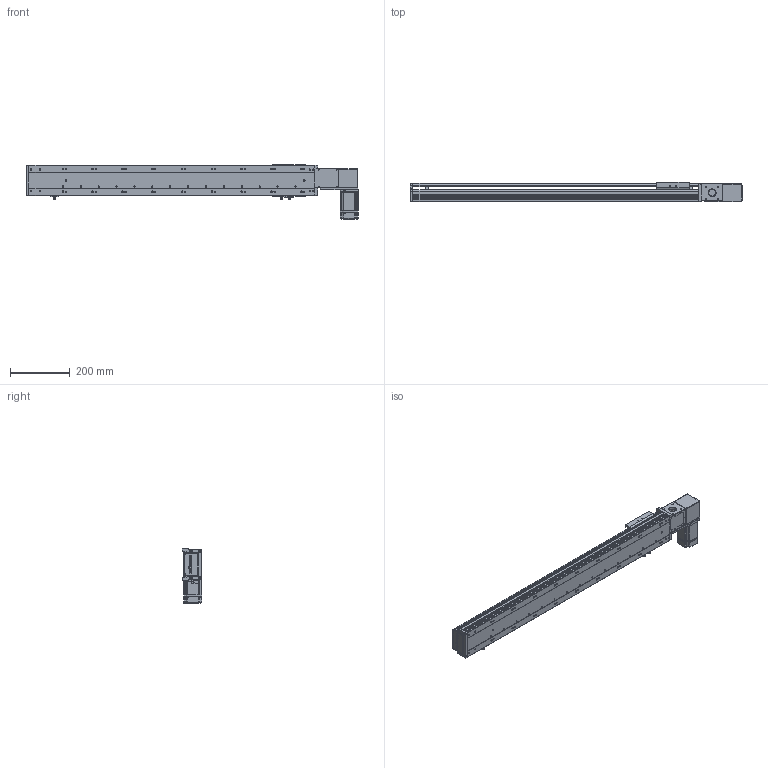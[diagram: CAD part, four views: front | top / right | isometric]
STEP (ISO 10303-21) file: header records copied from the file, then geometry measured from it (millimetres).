
FILE_DESCRIPTION (( 'STEP AP203' ), '1' );
FILE_NAME ('RY100-T-300-LK.SLDASM_750.step', '2024-04-25T05:37:10', ( '盈信电脑' ), ( '东莞市道滘镇水果街19号' ), 'SwSTEP 2.0', 'SolidWorks 2016', '' );
FILE_SCHEMA (( 'CONFIG_CONTROL_DESIGN' ));
Length unit declared in the file: millimetre
Products named in the file (13): 滅袉蝶18-10; 1; RY100綴裔啣; RY100-T-300-LK.SLDASM_750; RY100-T翋肮祭謫裔啣2; RY100-T-300-RK倰第菁釱_750; RY100-T-300-RK倰第奻裔_750; RY100俋离覜茼え; RY100-T左右折电机安装板; RY100-T肮祭謫臏賑輸; RY80-T肮祭謫俋欶; RY100-T肮祭謫翋盓傅釱; 覜茼ん672
Assembly tree (16 placements, depth 2):
  RY100-T-300-LK.SLDASM_750
    RY100-T-300-RK倰第菁釱_750
    RY100-T-300-RK倰第奻裔_750
    RY100-T肮祭謫臏賑輸
    RY100綴裔啣
    覜茼ん672  x3
    RY100俋离覜茼え
    RY100-T肮祭謫翋盓傅釱
    滅袉蝶18-10  x2
    RY100-T翋肮祭謫裔啣2  x2
    RY80-T肮祭謫俋欶
    RY100-T左右折电机安装板
    1
Bounding box: 1114 x 66 x 182.5 mm (x, y, z)
Volume: 2210163.7 mm3; surface area: 896117.7 mm2
Topology: 16 solids, 16 shells, 2184 faces, 6109 edges, 3971 vertices
Faces by surface type: plane 1182, cylinder 789, cone 135, bspline 78
Entity records: 70069 total; most frequent: CARTESIAN_POINT 17243, ORIENTED_EDGE 10954, DIRECTION 10349, EDGE_CURVE 5477, VERTEX_POINT 3607, LINE 3529, VECTOR 3529, AXIS2_PLACEMENT_3D 3410
